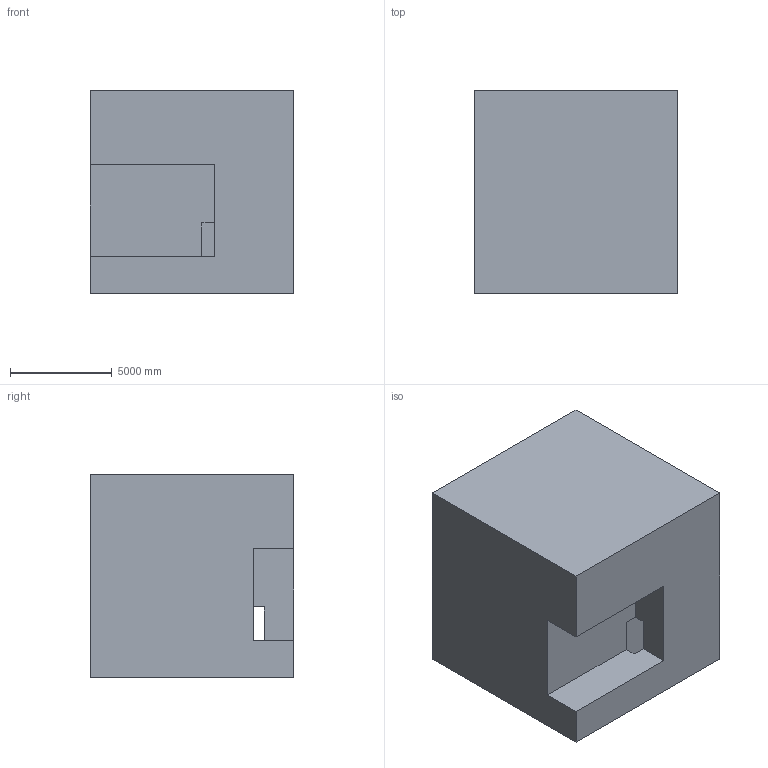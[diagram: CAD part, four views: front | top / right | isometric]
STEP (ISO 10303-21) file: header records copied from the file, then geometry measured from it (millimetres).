
FILE_DESCRIPTION (( 'STEP AP203' ), '1' );
FILE_NAME ('1189.STEP', '2022-08-18T13:06:42', ( 'user' ), ( '' ), 'SwSTEP 2.0', 'SolidWorks 2021', '' );
FILE_SCHEMA (( 'CONFIG_CONTROL_DESIGN' ));
Length unit declared in the file: centimetre
Products named in the file (1): 1189
Bounding box: 10000 x 10000 x 10000 mm (x, y, z)
Volume: 926267308161.6 mm3; surface area: 651141479.4 mm2
Topology: 1 solids, 1 shells, 14 faces, 42 edges, 28 vertices
Faces by surface type: plane 14
Entity records: 547 total; most frequent: CARTESIAN_POINT 85, ORIENTED_EDGE 84, DIRECTION 72, EDGE_CURVE 42, VECTOR 42, LINE 42, VERTEX_POINT 28, AXIS2_PLACEMENT_3D 15
